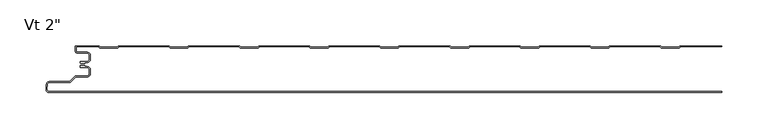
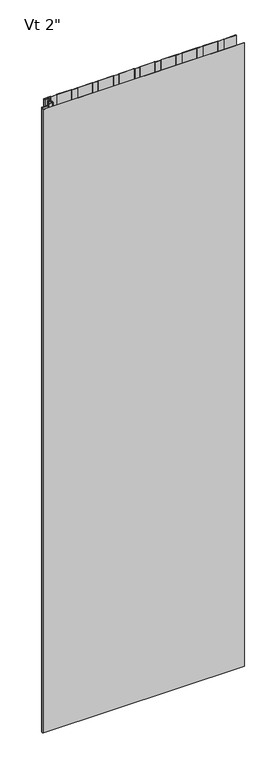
"""IFC4 building model written with IfcOpenShell, lengths in millimetres: plate geometry."""

from ifc_helpers import new_model, si_unit, point, frame, frame_2d, origin, origin_with_axes, place, context, project, spatial, polyline, circle_curve, trimmed, segment, composite_curve, outline, extrude, source, transform, mapped, element, save
from ifc_brep_helpers import plane_surface, cylinder_surface, revolved_surface, advanced_brep


def plate_09fe2767(model_context):
    return source(origin(), model_context, "Body", "SolidModel", [
        advanced_brep(
        [(-346.968691, -17.0015202, 2400.0), (-347.9686883, -18.0015234, 2400.0), (-346.968691, -19.0015147, 2400.0), (-342.9684874, -19.0015147, 2400.0), (-342.9684874, -18.0015202, 2400.0), (-340.2762776, -18.0015202, 2400.0), (-336.9762819, -14.7015245, 2400.0), (-336.9762819, -10.3015333, 2400.0), (-340.2762774, -7.0015378, 2400.0), (-350.6962563, -7.0015378, 2400.0), (-352.4662505, -5.2315436, 2400.0), (-352.4662505, -0.9999959, 2400.0), (-327.9659738, -0.9999959, 2400.0), (-326.5803312, -2.200235, 2400.0), (-307.2051649, -2.200235, 2400.0), (-305.819532, -1.0000043, 2400.0), (-251.7661166, -1.0000043, 2400.0), (-250.3804836, -2.200235, 2400.0), (-231.0053173, -2.200235, 2400.0), (-229.6196844, -1.0000043, 2400.0), (-175.566269, -1.0000043, 2400.0), (-174.180636, -2.200235, 2400.0), (-154.8054697, -2.200235, 2400.0), (-153.4198368, -1.0000043, 2400.0), (-99.3664214, -1.0000043, 2400.0), (-97.9807884, -2.200235, 2400.0), (-78.6056221, -2.200235, 2400.0), (-77.2199892, -1.0000043, 2400.0), (-23.1665738, -1.0000043, 2400.0), (-21.7809408, -2.200235, 2400.0), (-2.4057745, -2.200235, 2400.0), (-1.0201416, -1.0000043, 2400.0), (53.0332738, -1.0000043, 2400.0), (54.4189068, -2.200235, 2400.0), (73.7940731, -2.200235, 2400.0), (75.179706, -1.0000043, 2400.0), (129.2331214, -1.0000043, 2400.0), (130.6187544, -2.200235, 2400.0), (149.9939207, -2.200235, 2400.0), (151.3795536, -1.0000043, 2400.0), (205.432969, -1.0000043, 2400.0), (206.818602, -2.200235, 2400.0), (226.1937683, -2.200235, 2400.0), (227.5794012, -1.0000043, 2400.0), (281.6328166, -1.0000043, 2400.0), (283.0184496, -2.200235, 2400.0), (302.3936159, -2.200235, 2400.0), (303.7792488, -1.0000043, 2400.0), (348.9999998, -1.0000043, 2400.0), (348.9999998, -4.3e-06, 2400.0), (303.9284, -4.3e-06, 2400.0), (303.0117831, -0.3417928, 2400.0), (302.0207355, -1.200235, 2400.0), (283.39133, -1.200235, 2400.0), (282.4002824, -0.3417928, 2400.0), (281.4836655, -4.3e-06, 2400.0), (227.7285524, -4.3e-06, 2400.0), (226.8119355, -0.3417928, 2400.0), (225.8208879, -1.200235, 2400.0), (207.1914824, -1.200235, 2400.0), (206.2004348, -0.3417928, 2400.0), (205.2838179, -4.3e-06, 2400.0), (151.5287048, -4.3e-06, 2400.0), (150.6120879, -0.3417928, 2400.0), (149.6210403, -1.200235, 2400.0), (130.9916348, -1.200235, 2400.0), (130.0005872, -0.3417928, 2400.0), (129.0839703, -4.3e-06, 2400.0), (75.3288572, -4.3e-06, 2400.0), (74.4122403, -0.3417928, 2400.0), (73.4211927, -1.200235, 2400.0), (54.7917872, -1.200235, 2400.0), (53.8007396, -0.3417928, 2400.0), (52.8841227, -4.3e-06, 2400.0), (-0.8709904, -4.3e-06, 2400.0), (-1.7876073, -0.3417928, 2400.0), (-2.7786549, -1.200235, 2400.0), (-21.4080604, -1.200235, 2400.0), (-22.399108, -0.3417928, 2400.0), (-23.3157249, -4.3e-06, 2400.0), (-77.070838, -4.3e-06, 2400.0), (-77.9874549, -0.3417928, 2400.0), (-78.9785025, -1.200235, 2400.0), (-97.607908, -1.200235, 2400.0), (-98.5989556, -0.3417928, 2400.0), (-99.5155725, -4.3e-06, 2400.0), (-153.2706856, -4.3e-06, 2400.0), (-154.1873025, -0.3417928, 2400.0), (-155.1783501, -1.200235, 2400.0), (-173.8077556, -1.200235, 2400.0), (-174.7988032, -0.3417928, 2400.0), (-175.7154201, -4.3e-06, 2400.0), (-229.4705332, -4.3e-06, 2400.0), (-230.3871501, -0.3417928, 2400.0), (-231.3781977, -1.200235, 2400.0), (-250.0076032, -1.200235, 2400.0), (-250.9986508, -0.3417928, 2400.0), (-251.9152677, -4.3e-06, 2400.0), (-305.6703808, -4.3e-06, 2400.0), (-306.5869977, -0.3417928, 2400.0), (-307.5780453, -1.200235, 2400.0), (-326.2074508, -1.200235, 2400.0), (-327.1984984, -0.3417928, 2400.0), (-328.1152067, -4.3e-06, 2400.0), (-352.0662543, 4.1e-06, 2400.0), (-353.4662505, -1.3999921, 2400.0), (-353.4662505, -5.2315436, 2400.0), (-350.6962563, -8.0015378, 2400.0), (-340.2762774, -8.0015378, 2400.0), (-337.9762819, -10.3015333, 2400.0), (-337.9762819, -14.7015245, 2400.0), (-340.2762776, -17.0015202, 2400.0), (-346.968691, -17.0015202, 0.0), (-340.2762776, -17.0015202, 0.0), (-337.9762819, -14.7015245, 0.0), (-337.9762819, -10.3015333, 0.0), (-340.2762774, -8.0015378, 0.0), (-350.6962563, -8.0015378, 0.0), (-353.4662505, -5.2315436, 0.0), (-353.4662505, -1.3999921, 0.0), (-352.0662543, 4.1e-06, 0.0), (-328.1151153, 4.1e-06, 0.0), (-327.1984984, -0.3417928, 0.0), (-326.2074508, -1.200235, 0.0), (-307.5780453, -1.200235, 0.0), (-306.5869977, -0.3417928, 0.0), (-305.6703808, -4.3e-06, 0.0), (-251.9152677, -4.3e-06, 0.0), (-250.9986508, -0.3417928, 0.0), (-250.0076032, -1.200235, 0.0), (-231.3781977, -1.200235, 0.0), (-230.3871501, -0.3417928, 0.0), (-229.4705332, -4.3e-06, 0.0), (-175.7154201, -4.3e-06, 0.0), (-174.7988032, -0.3417928, 0.0), (-173.8077556, -1.200235, 0.0), (-155.1783501, -1.200235, 0.0), (-154.1873025, -0.3417928, 0.0), (-153.2706856, -4.3e-06, 0.0), (-99.5155725, -4.3e-06, 0.0), (-98.5989556, -0.3417928, 0.0), (-97.607908, -1.200235, 0.0), (-78.9785025, -1.200235, 0.0), (-77.9874549, -0.3417928, 0.0), (-77.070838, -4.3e-06, 0.0), (-23.3157249, -4.3e-06, 0.0), (-22.399108, -0.3417928, 0.0), (-21.4080604, -1.200235, 0.0), (-2.7786549, -1.200235, 0.0), (-1.7876073, -0.3417928, 0.0), (-0.8709904, -4.3e-06, 0.0), (52.8841227, -4.3e-06, 0.0), (53.8007396, -0.3417928, 0.0), (54.7917872, -1.200235, 0.0), (73.4211927, -1.200235, 0.0), (74.4122403, -0.3417928, 0.0), (75.3288572, -4.3e-06, 0.0), (129.0839703, -4.3e-06, 0.0), (130.0005872, -0.3417928, 0.0), (130.9916348, -1.200235, 0.0), (149.6210403, -1.200235, 0.0), (150.6120879, -0.3417928, 0.0), (151.5287048, -4.3e-06, 0.0), (205.2838179, -4.3e-06, 0.0), (206.2004348, -0.3417928, 0.0), (207.1914824, -1.200235, 0.0), (225.8208879, -1.200235, 0.0), (226.8119355, -0.3417928, 0.0), (227.7285524, -4.3e-06, 0.0), (281.4836655, -4.3e-06, 0.0), (282.4002824, -0.3417928, 0.0), (283.39133, -1.200235, 0.0), (302.0207355, -1.200235, 0.0), (303.0117831, -0.3417928, 0.0), (303.9284, -4.3e-06, 0.0), (348.9999998, -4.3e-06, 0.0), (348.9999998, -1.0000043, 0.0), (303.7792488, -1.0000043, 0.0), (302.3936159, -2.200235, 0.0), (283.0184496, -2.200235, 0.0), (281.6328166, -1.0000043, 0.0), (227.5794012, -1.0000043, 0.0), (226.1937683, -2.200235, 0.0), (206.818602, -2.200235, 0.0), (205.432969, -1.0000043, 0.0), (151.3795536, -1.0000043, 0.0), (149.9939207, -2.200235, 0.0), (130.6187544, -2.200235, 0.0), (129.2331214, -1.0000043, 0.0), (75.179706, -1.0000043, 0.0), (73.7940731, -2.200235, 0.0), (54.4189068, -2.200235, 0.0), (53.0332738, -1.0000043, 0.0), (-1.0201416, -1.0000043, 0.0), (-2.4057745, -2.200235, 0.0), (-21.7809408, -2.200235, 0.0), (-23.1665738, -1.0000043, 0.0), (-77.2199892, -1.0000043, 0.0), (-78.6056221, -2.200235, 0.0), (-97.9807884, -2.200235, 0.0), (-99.3664214, -1.0000043, 0.0), (-153.4198368, -1.0000043, 0.0), (-154.8054697, -2.200235, 0.0), (-174.180636, -2.200235, 0.0), (-175.566269, -1.0000043, 0.0), (-229.6196844, -1.0000043, 0.0), (-231.0053173, -2.200235, 0.0), (-250.3804836, -2.200235, 0.0), (-251.7661166, -1.0000043, 0.0), (-305.819532, -1.0000043, 0.0), (-307.2051649, -2.200235, 0.0), (-326.5803312, -2.200235, 0.0), (-327.9659738, -0.9999959, 0.0), (-352.4662505, -0.9999959, 0.0), (-352.4662505, -5.2315436, 0.0), (-350.6962563, -7.0015378, 0.0), (-340.2762774, -7.0015378, 0.0), (-336.9762819, -10.3015333, 0.0), (-336.9762819, -14.7015245, 0.0), (-340.2762776, -18.0015202, 0.0), (-342.9684874, -18.0015202, 0.0), (-342.9684874, -19.0015147, 0.0), (-346.968691, -19.0015147, 0.0), (-347.9686882, -18.0015235, 0.0)],
        [
            (0, 1, circle_curve(frame((-346.968691, -18.0015175, 2400.0), z_axis=(0.0, 0.0, 1.0), x_axis=(1.0, 0.0, 0.0)), 0.9999973)),
            (1, 2, circle_curve(frame((-346.968691, -18.0015175, 2400.0), z_axis=(0.0, 0.0, 1.0), x_axis=(1.0, 0.0, 0.0)), 0.9999972)),
            (2, 3),
            (3, 4),
            (4, 5),
            (5, 6, circle_curve(frame((-340.2762776, -14.7015245, 2400.0), z_axis=(0.0, 0.0, 1.0), x_axis=(1.0, 0.0, 0.0)), 3.2999957)),
            (6, 7),
            (7, 8, circle_curve(frame((-340.2762774, -10.3015333, 2400.0), z_axis=(0.0, 0.0, 1.0), x_axis=(1.0, 0.0, 0.0)), 3.2999955)),
            (8, 9),
            (9, 10, circle_curve(frame((-350.6962563, -5.2315436, 2400.0), z_axis=(0.0, 0.0, -1.0), x_axis=(1.0, 0.0, 0.0)), 1.7699942)),
            (10, 11),
            (11, 12),
            (12, 13),
            (13, 14),
            (14, 15),
            (15, 16),
            (16, 17),
            (17, 18),
            (18, 19),
            (19, 20),
            (20, 21),
            (21, 22),
            (22, 23),
            (23, 24),
            (24, 25),
            (25, 26),
            (26, 27),
            (27, 28),
            (28, 29),
            (29, 30),
            (30, 31),
            (31, 32),
            (32, 33),
            (33, 34),
            (34, 35),
            (35, 36),
            (36, 37),
            (37, 38),
            (38, 39),
            (39, 40),
            (40, 41),
            (41, 42),
            (42, 43),
            (43, 44),
            (44, 45),
            (45, 46),
            (46, 47),
            (47, 48),
            (48, 49),
            (49, 50),
            (50, 51, circle_curve(frame((303.9284, -1.4000015, 2400.0), z_axis=(0.0, 0.0, 1.0), x_axis=(1.0, 0.0, 0.0)), 1.3999972)),
            (51, 52),
            (52, 53),
            (53, 54),
            (54, 55, circle_curve(frame((281.4836655, -1.4000015, 2400.0), z_axis=(0.0, 0.0, 1.0), x_axis=(1.0, 0.0, 0.0)), 1.3999972)),
            (55, 56),
            (56, 57, circle_curve(frame((227.7285524, -1.4000015, 2400.0), z_axis=(0.0, 0.0, 1.0), x_axis=(1.0, 0.0, 0.0)), 1.3999972)),
            (57, 58),
            (58, 59),
            (59, 60),
            (60, 61, circle_curve(frame((205.2838179, -1.4000015, 2400.0), z_axis=(0.0, 0.0, 1.0), x_axis=(1.0, 0.0, 0.0)), 1.3999972)),
            (61, 62),
            (62, 63, circle_curve(frame((151.5287048, -1.4000015, 2400.0), z_axis=(0.0, 0.0, 1.0), x_axis=(1.0, 0.0, 0.0)), 1.3999972)),
            (63, 64),
            (64, 65),
            (65, 66),
            (66, 67, circle_curve(frame((129.0839703, -1.4000015, 2400.0), z_axis=(0.0, 0.0, 1.0), x_axis=(1.0, 0.0, 0.0)), 1.3999972)),
            (67, 68),
            (68, 69, circle_curve(frame((75.3288572, -1.4000015, 2400.0), z_axis=(0.0, 0.0, 1.0), x_axis=(1.0, 0.0, 0.0)), 1.3999972)),
            (69, 70),
            (70, 71),
            (71, 72),
            (72, 73, circle_curve(frame((52.8841227, -1.4000015, 2400.0), z_axis=(0.0, 0.0, 1.0), x_axis=(1.0, 0.0, 0.0)), 1.3999972)),
            (73, 74),
            (74, 75, circle_curve(frame((-0.8709904, -1.4000015, 2400.0), z_axis=(0.0, 0.0, 1.0), x_axis=(1.0, 0.0, 0.0)), 1.3999972)),
            (75, 76),
            (76, 77),
            (77, 78),
            (78, 79, circle_curve(frame((-23.3157249, -1.4000015, 2400.0), z_axis=(0.0, 0.0, 1.0), x_axis=(1.0, 0.0, 0.0)), 1.3999972)),
            (79, 80),
            (80, 81, circle_curve(frame((-77.070838, -1.4000015, 2400.0), z_axis=(0.0, 0.0, 1.0), x_axis=(1.0, 0.0, 0.0)), 1.3999972)),
            (81, 82),
            (82, 83),
            (83, 84),
            (84, 85, circle_curve(frame((-99.5155725, -1.4000015, 2400.0), z_axis=(0.0, 0.0, 1.0), x_axis=(1.0, 0.0, 0.0)), 1.3999972)),
            (85, 86),
            (86, 87, circle_curve(frame((-153.2706856, -1.4000015, 2400.0), z_axis=(0.0, 0.0, 1.0), x_axis=(1.0, 0.0, 0.0)), 1.3999972)),
            (87, 88),
            (88, 89),
            (89, 90),
            (90, 91, circle_curve(frame((-175.7154201, -1.4000015, 2400.0), z_axis=(0.0, 0.0, 1.0), x_axis=(1.0, 0.0, 0.0)), 1.3999972)),
            (91, 92),
            (92, 93, circle_curve(frame((-229.4705332, -1.4000015, 2400.0), z_axis=(0.0, 0.0, 1.0), x_axis=(1.0, 0.0, 0.0)), 1.3999972)),
            (93, 94),
            (94, 95),
            (95, 96),
            (96, 97, circle_curve(frame((-251.9152677, -1.4000015, 2400.0), z_axis=(0.0, 0.0, 1.0), x_axis=(1.0, 0.0, 0.0)), 1.3999972)),
            (97, 98),
            (98, 99, circle_curve(frame((-305.6703808, -1.4000015, 2400.0), z_axis=(0.0, 0.0, 1.0), x_axis=(1.0, 0.0, 0.0)), 1.3999972)),
            (99, 100),
            (100, 101),
            (101, 102),
            (102, 103, circle_curve(frame((-328.1151153, -1.4000015, 2400.0), z_axis=(0.0, 0.0, 1.0), x_axis=(1.0, 0.0, 0.0)), 1.3999972)),
            (103, 104),
            (104, 105, circle_curve(frame((-352.0662543, -1.3999921, 2400.0), z_axis=(0.0, 0.0, 1.0), x_axis=(1.0, 0.0, 0.0)), 1.3999962)),
            (105, 106),
            (106, 107, circle_curve(frame((-350.6962563, -5.2315436, 2400.0), z_axis=(0.0, 0.0, 1.0), x_axis=(1.0, 0.0, 0.0)), 2.7699942)),
            (107, 108),
            (108, 109, circle_curve(frame((-340.2762774, -10.3015333, 2400.0), z_axis=(0.0, 0.0, -1.0), x_axis=(1.0, 0.0, 0.0)), 2.2999955)),
            (109, 110),
            (110, 111, circle_curve(frame((-340.2762776, -14.7015245, 2400.0), z_axis=(0.0, 0.0, -1.0), x_axis=(1.0, 0.0, 0.0)), 2.2999957)),
            (111, 0),
            (112, 113),
            (113, 114, circle_curve(frame((-340.2762776, -14.7015245, 0.0), z_axis=(0.0, 0.0, 1.0), x_axis=(1.0, 0.0, 0.0)), 2.2999957)),
            (114, 115),
            (115, 116, circle_curve(frame((-340.2762774, -10.3015333, 0.0), z_axis=(0.0, 0.0, 1.0), x_axis=(1.0, 0.0, 0.0)), 2.2999955)),
            (116, 117),
            (117, 118, circle_curve(frame((-350.6962563, -5.2315436, 0.0), z_axis=(0.0, 0.0, -1.0), x_axis=(1.0, 0.0, 0.0)), 2.7699942)),
            (118, 119),
            (119, 120, circle_curve(frame((-352.0662543, -1.3999921, 0.0), z_axis=(0.0, 0.0, -1.0), x_axis=(1.0, 0.0, 0.0)), 1.3999962)),
            (120, 121),
            (121, 122, circle_curve(frame((-328.1151153, -1.4000015, 0.0), z_axis=(0.0, 0.0, -1.0), x_axis=(1.0, 0.0, 0.0)), 1.3999972)),
            (122, 123),
            (123, 124),
            (124, 125),
            (125, 126, circle_curve(frame((-305.6703808, -1.4000015, 0.0), z_axis=(0.0, 0.0, -1.0), x_axis=(1.0, 0.0, 0.0)), 1.3999972)),
            (126, 127),
            (127, 128, circle_curve(frame((-251.9152677, -1.4000015, 0.0), z_axis=(0.0, 0.0, -1.0), x_axis=(1.0, 0.0, 0.0)), 1.3999972)),
            (128, 129),
            (129, 130),
            (130, 131),
            (131, 132, circle_curve(frame((-229.4705332, -1.4000015, 0.0), z_axis=(0.0, 0.0, -1.0), x_axis=(1.0, 0.0, 0.0)), 1.3999972)),
            (132, 133),
            (133, 134, circle_curve(frame((-175.7154201, -1.4000015, 0.0), z_axis=(0.0, 0.0, -1.0), x_axis=(1.0, 0.0, 0.0)), 1.3999972)),
            (134, 135),
            (135, 136),
            (136, 137),
            (137, 138, circle_curve(frame((-153.2706856, -1.4000015, 0.0), z_axis=(0.0, 0.0, -1.0), x_axis=(1.0, 0.0, 0.0)), 1.3999972)),
            (138, 139),
            (139, 140, circle_curve(frame((-99.5155725, -1.4000015, 0.0), z_axis=(0.0, 0.0, -1.0), x_axis=(1.0, 0.0, 0.0)), 1.3999972)),
            (140, 141),
            (141, 142),
            (142, 143),
            (143, 144, circle_curve(frame((-77.070838, -1.4000015, 0.0), z_axis=(0.0, 0.0, -1.0), x_axis=(1.0, 0.0, 0.0)), 1.3999972)),
            (144, 145),
            (145, 146, circle_curve(frame((-23.3157249, -1.4000015, 0.0), z_axis=(0.0, 0.0, -1.0), x_axis=(1.0, 0.0, 0.0)), 1.3999972)),
            (146, 147),
            (147, 148),
            (148, 149),
            (149, 150, circle_curve(frame((-0.8709904, -1.4000015, 0.0), z_axis=(0.0, 0.0, -1.0), x_axis=(1.0, 0.0, 0.0)), 1.3999972)),
            (150, 151),
            (151, 152, circle_curve(frame((52.8841227, -1.4000015, 0.0), z_axis=(0.0, 0.0, -1.0), x_axis=(1.0, 0.0, 0.0)), 1.3999972)),
            (152, 153),
            (153, 154),
            (154, 155),
            (155, 156, circle_curve(frame((75.3288572, -1.4000015, 0.0), z_axis=(0.0, 0.0, -1.0), x_axis=(1.0, 0.0, 0.0)), 1.3999972)),
            (156, 157),
            (157, 158, circle_curve(frame((129.0839703, -1.4000015, 0.0), z_axis=(0.0, 0.0, -1.0), x_axis=(1.0, 0.0, 0.0)), 1.3999972)),
            (158, 159),
            (159, 160),
            (160, 161),
            (161, 162, circle_curve(frame((151.5287048, -1.4000015, 0.0), z_axis=(0.0, 0.0, -1.0), x_axis=(1.0, 0.0, 0.0)), 1.3999972)),
            (162, 163),
            (163, 164, circle_curve(frame((205.2838179, -1.4000015, 0.0), z_axis=(0.0, 0.0, -1.0), x_axis=(1.0, 0.0, 0.0)), 1.3999972)),
            (164, 165),
            (165, 166),
            (166, 167),
            (167, 168, circle_curve(frame((227.7285524, -1.4000015, 0.0), z_axis=(0.0, 0.0, -1.0), x_axis=(1.0, 0.0, 0.0)), 1.3999972)),
            (168, 169),
            (169, 170, circle_curve(frame((281.4836655, -1.4000015, 0.0), z_axis=(0.0, 0.0, -1.0), x_axis=(1.0, 0.0, 0.0)), 1.3999972)),
            (170, 171),
            (171, 172),
            (172, 173),
            (173, 174, circle_curve(frame((303.9284, -1.4000015, 0.0), z_axis=(0.0, 0.0, -1.0), x_axis=(1.0, 0.0, 0.0)), 1.3999972)),
            (174, 175),
            (175, 176),
            (176, 177),
            (177, 178),
            (178, 179),
            (179, 180),
            (180, 181),
            (181, 182),
            (182, 183),
            (183, 184),
            (184, 185),
            (185, 186),
            (186, 187),
            (187, 188),
            (188, 189),
            (189, 190),
            (190, 191),
            (191, 192),
            (192, 193),
            (193, 194),
            (194, 195),
            (195, 196),
            (196, 197),
            (197, 198),
            (198, 199),
            (199, 200),
            (200, 201),
            (201, 202),
            (202, 203),
            (203, 204),
            (204, 205),
            (205, 206),
            (206, 207),
            (207, 208),
            (208, 209),
            (209, 210),
            (210, 211),
            (211, 212),
            (212, 213),
            (213, 214),
            (214, 215, circle_curve(frame((-350.6962563, -5.2315436, 0.0), z_axis=(0.0, 0.0, 1.0), x_axis=(1.0, 0.0, 0.0)), 1.7699942)),
            (215, 216),
            (216, 217, circle_curve(frame((-340.2762774, -10.3015333, 0.0), z_axis=(0.0, 0.0, -1.0), x_axis=(1.0, 0.0, 0.0)), 3.2999955)),
            (217, 218),
            (218, 219, circle_curve(frame((-340.2762776, -14.7015245, 0.0), z_axis=(0.0, 0.0, -1.0), x_axis=(1.0, 0.0, 0.0)), 3.2999957)),
            (219, 220),
            (220, 221),
            (221, 222),
            (222, 223, circle_curve(frame((-346.968691, -18.0015175, 0.0), z_axis=(0.0, 0.0, -1.0), x_axis=(1.0, 0.0, 0.0)), 0.9999972)),
            (223, 112, circle_curve(frame((-346.968691, -18.0015175, 0.0), z_axis=(0.0, 0.0, -1.0), x_axis=(1.0, 0.0, 0.0)), 0.9999973)),
            (48, 176),
            (175, 49),
            (111, 113),
            (112, 0),
            (110, 114),
            (109, 115),
            (108, 116),
            (107, 117),
            (106, 118),
            (105, 119),
            (104, 120),
            (103, 121),
            (102, 122),
            (101, 123),
            (100, 124),
            (99, 125),
            (98, 126),
            (97, 127),
            (96, 128),
            (95, 129),
            (94, 130),
            (93, 131),
            (92, 132),
            (91, 133),
            (90, 134),
            (89, 135),
            (88, 136),
            (87, 137),
            (86, 138),
            (85, 139),
            (84, 140),
            (83, 141),
            (82, 142),
            (81, 143),
            (80, 144),
            (79, 145),
            (78, 146),
            (77, 147),
            (76, 148),
            (75, 149),
            (74, 150),
            (73, 151),
            (72, 152),
            (71, 153),
            (70, 154),
            (69, 155),
            (68, 156),
            (67, 157),
            (66, 158),
            (65, 159),
            (64, 160),
            (63, 161),
            (62, 162),
            (38, 186),
            (185, 39),
            (37, 187),
            (36, 188),
            (35, 189),
            (34, 190),
            (33, 191),
            (32, 192),
            (31, 193),
            (30, 194),
            (29, 195),
            (28, 196),
            (27, 197),
            (26, 198),
            (25, 199),
            (24, 200),
            (23, 201),
            (22, 202),
            (21, 203),
            (20, 204),
            (19, 205),
            (18, 206),
            (17, 207),
            (16, 208),
            (15, 209),
            (14, 210),
            (13, 211),
            (12, 212),
            (11, 213),
            (10, 214),
            (9, 215),
            (8, 216),
            (7, 217),
            (6, 218),
            (5, 219),
            (4, 220),
            (3, 221),
            (2, 222),
            (1, 223),
            (61, 163),
            (60, 164),
            (59, 165),
            (47, 177),
            (46, 178),
            (45, 179),
            (44, 180),
            (43, 181),
            (42, 182),
            (41, 183),
            (40, 184),
            (58, 166),
            (57, 167),
            (56, 168),
            (55, 169),
            (54, 170),
            (53, 171),
            (52, 172),
            (51, 173),
            (50, 174),
        ],
        [
            plane_surface(frame((32.0000002, -4.3e-06, 2400.0), z_axis=(0.0, 0.0, 1.0), x_axis=(0.0, 1.0, 0.0))),
            plane_surface(frame((32.0000002, -4.3e-06, 0.0), z_axis=(0.0, 0.0, -1.0), x_axis=(0.0, 1.0, 0.0))),
            plane_surface(frame((348.9999998, -60.8000043, 2400.0), z_axis=(1.0, 0.0, 0.0), x_axis=(0.0, 0.0, -1.0))),
            plane_surface(frame((-346.968691, -17.0015202, 2400.0), z_axis=(0.0, 1.0, 0.0), x_axis=(0.0, 0.0, -1.0))),
            revolved_surface(polyline([(-337.9762819, -14.7015245, 0.0), (-337.9762819, -14.7015245, 2400.0)]), (-340.2762776, -14.7015245, 2400.0), (0.0, 0.0, -1.0)),
            plane_surface(frame((-337.9762819, -14.7015245, 2400.0), z_axis=(-1.0, 0.0, 0.0), x_axis=(0.0, 0.0, -1.0))),
            revolved_surface(polyline([(-337.9762819, -10.3015333, 0.0), (-337.9762819, -10.3015333, 2400.0)]), (-340.2762774, -10.3015333, 2400.0), (0.0, 0.0, -1.0)),
            plane_surface(frame((-340.2762774, -8.0015378, 2400.0), z_axis=(0.0, -1.0, 0.0), x_axis=(0.0, 0.0, -1.0))),
            cylinder_surface(frame((-350.6962563, -5.2315436, 2400.0), z_axis=(0.0, 0.0, 1.0), x_axis=(1.0, 0.0, 0.0)), 2.7699942),
            plane_surface(frame((-353.4662505, -5.2315436, 2400.0), z_axis=(-1.0, 0.0, 0.0), x_axis=(0.0, 0.0, -1.0))),
            cylinder_surface(frame((-352.0662543, -1.3999921, 2400.0), z_axis=(0.0, 0.0, 1.0), x_axis=(1.0, 0.0, 0.0)), 1.3999962),
            plane_surface(frame((-352.0662543, 4.1e-06, 2400.0), z_axis=(0.0, 1.0, 0.0), x_axis=(0.0, 0.0, -1.0))),
            cylinder_surface(frame((-328.1151153, -1.4000015, 2400.0), z_axis=(0.0, 0.0, 1.0), x_axis=(1.0, 0.0, 0.0)), 1.3999972),
            plane_surface(frame((-327.1984984, -0.3417928, 2400.0), z_axis=(0.6547276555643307, 0.7558648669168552, 0.0), x_axis=(0.0, 0.0, -1.0))),
            plane_surface(frame((-316.8927481, -1.200235, 2400.0), z_axis=(0.0, 1.0, 0.0), x_axis=(0.0, 0.0, -1.0))),
            plane_surface(frame((-307.5780453, -1.200235, 2400.0), z_axis=(-0.6547276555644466, 0.7558648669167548, 0.0), x_axis=(0.0, 0.0, -1.0))),
            cylinder_surface(frame((-305.6703808, -1.4000015, 2400.0), z_axis=(0.0, 0.0, 1.0), x_axis=(1.0, 0.0, 0.0)), 1.3999972),
            plane_surface(frame((-305.6703808, -4.3e-06, 2400.0), z_axis=(0.0, 1.0, 0.0), x_axis=(0.0, 0.0, -1.0))),
            cylinder_surface(frame((-251.9152677, -1.4000015, 2400.0), z_axis=(0.0, 0.0, 1.0), x_axis=(1.0, 0.0, 0.0)), 1.3999972),
            plane_surface(frame((-250.9986508, -0.3417928, 2400.0), z_axis=(0.6547276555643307, 0.7558648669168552, 0.0), x_axis=(0.0, 0.0, -1.0))),
            plane_surface(frame((-240.6929005, -1.200235, 2400.0), z_axis=(0.0, 1.0, 0.0), x_axis=(0.0, 0.0, -1.0))),
            plane_surface(frame((-231.3781977, -1.200235, 2400.0), z_axis=(-0.6547276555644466, 0.7558648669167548, 0.0), x_axis=(0.0, 0.0, -1.0))),
            cylinder_surface(frame((-229.4705332, -1.4000015, 2400.0), z_axis=(0.0, 0.0, 1.0), x_axis=(1.0, 0.0, 0.0)), 1.3999972),
            plane_surface(frame((-229.4705332, -4.3e-06, 2400.0), z_axis=(0.0, 1.0, 0.0), x_axis=(0.0, 0.0, -1.0))),
            cylinder_surface(frame((-175.7154201, -1.4000015, 2400.0), z_axis=(0.0, 0.0, 1.0), x_axis=(1.0, 0.0, 0.0)), 1.3999972),
            plane_surface(frame((-174.7988032, -0.3417928, 2400.0), z_axis=(0.6547276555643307, 0.7558648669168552, 0.0), x_axis=(0.0, 0.0, -1.0))),
            plane_surface(frame((-164.4930529, -1.200235, 2400.0), z_axis=(0.0, 1.0, 0.0), x_axis=(0.0, 0.0, -1.0))),
            plane_surface(frame((-155.1783501, -1.200235, 2400.0), z_axis=(-0.6547276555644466, 0.7558648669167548, 0.0), x_axis=(0.0, 0.0, -1.0))),
            cylinder_surface(frame((-153.2706856, -1.4000015, 2400.0), z_axis=(0.0, 0.0, 1.0), x_axis=(1.0, 0.0, 0.0)), 1.3999972),
            plane_surface(frame((-153.2706856, -4.3e-06, 2400.0), z_axis=(0.0, 1.0, 0.0), x_axis=(0.0, 0.0, -1.0))),
            cylinder_surface(frame((-99.5155725, -1.4000015, 2400.0), z_axis=(0.0, 0.0, 1.0), x_axis=(1.0, 0.0, 0.0)), 1.3999972),
            plane_surface(frame((-98.5989556, -0.3417928, 2400.0), z_axis=(0.6547276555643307, 0.7558648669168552, 0.0), x_axis=(0.0, 0.0, -1.0))),
            plane_surface(frame((-88.2932053, -1.200235, 2400.0), z_axis=(0.0, 1.0, 0.0), x_axis=(0.0, 0.0, -1.0))),
            plane_surface(frame((-78.9785025, -1.200235, 2400.0), z_axis=(-0.6547276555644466, 0.7558648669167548, 0.0), x_axis=(0.0, 0.0, -1.0))),
            cylinder_surface(frame((-77.070838, -1.4000015, 2400.0), z_axis=(0.0, 0.0, 1.0), x_axis=(1.0, 0.0, 0.0)), 1.3999972),
            plane_surface(frame((-77.070838, -4.3e-06, 2400.0), z_axis=(0.0, 1.0, 0.0), x_axis=(0.0, 0.0, -1.0))),
            cylinder_surface(frame((-23.3157249, -1.4000015, 2400.0), z_axis=(0.0, 0.0, 1.0), x_axis=(1.0, 0.0, 0.0)), 1.3999972),
            plane_surface(frame((-22.399108, -0.3417928, 2400.0), z_axis=(0.6547276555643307, 0.7558648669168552, 0.0), x_axis=(0.0, 0.0, -1.0))),
            plane_surface(frame((-12.0933577, -1.200235, 2400.0), z_axis=(0.0, 1.0, 0.0), x_axis=(0.0, 0.0, -1.0))),
            plane_surface(frame((-2.7786549, -1.200235, 2400.0), z_axis=(-0.6547276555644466, 0.7558648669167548, 0.0), x_axis=(0.0, 0.0, -1.0))),
            cylinder_surface(frame((-0.8709904, -1.4000015, 2400.0), z_axis=(0.0, 0.0, 1.0), x_axis=(1.0, 0.0, 0.0)), 1.3999972),
            plane_surface(frame((-0.8709904, -4.3e-06, 2400.0), z_axis=(0.0, 1.0, 0.0), x_axis=(0.0, 0.0, -1.0))),
            cylinder_surface(frame((52.8841227, -1.4000015, 2400.0), z_axis=(0.0, 0.0, 1.0), x_axis=(1.0, 0.0, 0.0)), 1.3999972),
            plane_surface(frame((53.8007396, -0.3417928, 2400.0), z_axis=(0.6547276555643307, 0.7558648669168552, 0.0), x_axis=(0.0, 0.0, -1.0))),
            plane_surface(frame((64.1064899, -1.200235, 2400.0), z_axis=(0.0, 1.0, 0.0), x_axis=(0.0, 0.0, -1.0))),
            plane_surface(frame((73.4211927, -1.200235, 2400.0), z_axis=(-0.6547276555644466, 0.7558648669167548, 0.0), x_axis=(0.0, 0.0, -1.0))),
            cylinder_surface(frame((75.3288572, -1.4000015, 2400.0), z_axis=(0.0, 0.0, 1.0), x_axis=(1.0, 0.0, 0.0)), 1.3999972),
            plane_surface(frame((75.3288572, -4.3e-06, 2400.0), z_axis=(0.0, 1.0, 0.0), x_axis=(0.0, 0.0, -1.0))),
            cylinder_surface(frame((129.0839703, -1.4000015, 2400.0), z_axis=(0.0, 0.0, 1.0), x_axis=(1.0, 0.0, 0.0)), 1.3999972),
            plane_surface(frame((130.0005872, -0.3417928, 2400.0), z_axis=(0.6547276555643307, 0.7558648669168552, 0.0), x_axis=(0.0, 0.0, -1.0))),
            plane_surface(frame((140.3063375, -1.200235, 2400.0), z_axis=(0.0, 1.0, 0.0), x_axis=(0.0, 0.0, -1.0))),
            plane_surface(frame((149.6210403, -1.200235, 2400.0), z_axis=(-0.6547276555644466, 0.7558648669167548, 0.0), x_axis=(0.0, 0.0, -1.0))),
            cylinder_surface(frame((151.5287048, -1.4000015, 2400.0), z_axis=(0.0, 0.0, 1.0), x_axis=(1.0, 0.0, 0.0)), 1.3999972),
            plane_surface(frame((151.3795536, -1.0000043, 2400.0), z_axis=(0.6547276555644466, -0.7558648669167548, 0.0), x_axis=(0.0, 0.0, -1.0))),
            plane_surface(frame((149.9939207, -2.200235, 2400.0), z_axis=(0.0, -1.0, 0.0), x_axis=(0.0, 0.0, -1.0))),
            plane_surface(frame((130.6187544, -2.200235, 2400.0), z_axis=(-0.6547276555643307, -0.7558648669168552, 0.0), x_axis=(0.0, 0.0, -1.0))),
            plane_surface(frame((129.2331214, -1.0000043, 2400.0), z_axis=(0.0, -1.0, 0.0), x_axis=(0.0, 0.0, -1.0))),
            plane_surface(frame((75.179706, -1.0000043, 2400.0), z_axis=(0.6547276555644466, -0.7558648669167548, 0.0), x_axis=(0.0, 0.0, -1.0))),
            plane_surface(frame((73.7940731, -2.200235, 2400.0), z_axis=(0.0, -1.0, 0.0), x_axis=(0.0, 0.0, -1.0))),
            plane_surface(frame((54.4189068, -2.200235, 2400.0), z_axis=(-0.6547276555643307, -0.7558648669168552, 0.0), x_axis=(0.0, 0.0, -1.0))),
            plane_surface(frame((53.0332738, -1.0000043, 2400.0), z_axis=(0.0, -1.0, 0.0), x_axis=(0.0, 0.0, -1.0))),
            plane_surface(frame((-1.0201416, -1.0000043, 2400.0), z_axis=(0.6547276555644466, -0.7558648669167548, 0.0), x_axis=(0.0, 0.0, -1.0))),
            plane_surface(frame((-2.4057745, -2.200235, 2400.0), z_axis=(0.0, -1.0, 0.0), x_axis=(0.0, 0.0, -1.0))),
            plane_surface(frame((-21.7809408, -2.200235, 2400.0), z_axis=(-0.6547276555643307, -0.7558648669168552, 0.0), x_axis=(0.0, 0.0, -1.0))),
            plane_surface(frame((-23.1665738, -1.0000043, 2400.0), z_axis=(0.0, -1.0, 0.0), x_axis=(0.0, 0.0, -1.0))),
            plane_surface(frame((-77.2199892, -1.0000043, 2400.0), z_axis=(0.6547276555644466, -0.7558648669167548, 0.0), x_axis=(0.0, 0.0, -1.0))),
            plane_surface(frame((-78.6056221, -2.200235, 2400.0), z_axis=(0.0, -1.0, 0.0), x_axis=(0.0, 0.0, -1.0))),
            plane_surface(frame((-97.9807884, -2.200235, 2400.0), z_axis=(-0.6547276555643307, -0.7558648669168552, 0.0), x_axis=(0.0, 0.0, -1.0))),
            plane_surface(frame((-99.3664214, -1.0000043, 2400.0), z_axis=(0.0, -1.0, 0.0), x_axis=(0.0, 0.0, -1.0))),
            plane_surface(frame((-153.4198368, -1.0000043, 2400.0), z_axis=(0.6547276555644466, -0.7558648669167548, 0.0), x_axis=(0.0, 0.0, -1.0))),
            plane_surface(frame((-154.8054697, -2.200235, 2400.0), z_axis=(0.0, -1.0, 0.0), x_axis=(0.0, 0.0, -1.0))),
            plane_surface(frame((-174.180636, -2.200235, 2400.0), z_axis=(-0.6547276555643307, -0.7558648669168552, 0.0), x_axis=(0.0, 0.0, -1.0))),
            plane_surface(frame((-175.566269, -1.0000043, 2400.0), z_axis=(0.0, -1.0, 0.0), x_axis=(0.0, 0.0, -1.0))),
            plane_surface(frame((-229.6196844, -1.0000043, 2400.0), z_axis=(0.6547276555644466, -0.7558648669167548, 0.0), x_axis=(0.0, 0.0, -1.0))),
            plane_surface(frame((-231.0053173, -2.200235, 2400.0), z_axis=(0.0, -1.0, 0.0), x_axis=(0.0, 0.0, -1.0))),
            plane_surface(frame((-250.3804836, -2.200235, 2400.0), z_axis=(-0.6547276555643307, -0.7558648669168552, 0.0), x_axis=(0.0, 0.0, -1.0))),
            plane_surface(frame((-251.7661166, -1.0000043, 2400.0), z_axis=(0.0, -1.0, 0.0), x_axis=(0.0, 0.0, -1.0))),
            plane_surface(frame((-305.819532, -1.0000043, 2400.0), z_axis=(0.6547276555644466, -0.7558648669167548, 0.0), x_axis=(0.0, 0.0, -1.0))),
            plane_surface(frame((-307.2051649, -2.200235, 2400.0), z_axis=(0.0, -1.0, 0.0), x_axis=(0.0, 0.0, -1.0))),
            plane_surface(frame((-326.5803312, -2.200235, 2400.0), z_axis=(-0.6547276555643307, -0.7558648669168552, 0.0), x_axis=(0.0, 0.0, -1.0))),
            plane_surface(frame((-327.9659738, -0.9999959, 2400.0), z_axis=(0.0, -1.0, 0.0), x_axis=(0.0, 0.0, -1.0))),
            plane_surface(frame((-352.4662505, -0.9999959, 2400.0), z_axis=(1.0, 0.0, 0.0), x_axis=(0.0, 0.0, -1.0))),
            revolved_surface(polyline([(-348.92626210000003, -5.2315436, 0.0), (-348.92626210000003, -5.2315436, 2400.0)]), (-350.6962563, -5.2315436, 2400.0), (0.0, 0.0, -1.0)),
            plane_surface(frame((-350.6962563, -7.0015378, 2400.0), z_axis=(0.0, 1.0, 0.0), x_axis=(0.0, 0.0, -1.0))),
            cylinder_surface(frame((-340.2762774, -10.3015333, 2400.0), z_axis=(0.0, 0.0, 1.0), x_axis=(1.0, 0.0, 0.0)), 3.2999955),
            plane_surface(frame((-336.9762819, -10.3015333, 2400.0), z_axis=(1.0, 0.0, 0.0), x_axis=(0.0, 0.0, -1.0))),
            cylinder_surface(frame((-340.2762776, -14.7015245, 2400.0), z_axis=(0.0, 0.0, 1.0), x_axis=(1.0, 0.0, 0.0)), 3.2999957),
            plane_surface(frame((-340.2762776, -18.0015202, 2400.0), z_axis=(0.0, -1.0, 0.0), x_axis=(0.0, 0.0, -1.0))),
            plane_surface(frame((-342.9684874, -18.0015202, 2400.0), z_axis=(1.0, 0.0, 0.0), x_axis=(0.0, 0.0, -1.0))),
            plane_surface(frame((-342.9684874, -19.0015147, 2400.0), z_axis=(0.0, -1.0, 0.0), x_axis=(0.0, 0.0, -1.0))),
            cylinder_surface(frame((-346.968691, -18.0015175, 2400.0), z_axis=(0.0, 0.0, 1.0), x_axis=(1.0, 0.0, 0.0)), 0.9999972),
            cylinder_surface(frame((-346.968691, -18.0015175, 2400.0), z_axis=(0.0, 0.0, 1.0), x_axis=(1.0, 0.0, 0.0)), 0.9999973),
            plane_surface(frame((151.5287048, -4.3e-06, 2400.0), z_axis=(0.0, 1.0, 0.0), x_axis=(0.0, 0.0, -1.0))),
            cylinder_surface(frame((205.2838179, -1.4000015, 2400.0), z_axis=(0.0, 0.0, 1.0), x_axis=(1.0, 0.0, 0.0)), 1.3999972),
            plane_surface(frame((206.2004348, -0.3417928, 2400.0), z_axis=(0.6547276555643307, 0.7558648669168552, 0.0), x_axis=(0.0, 0.0, -1.0))),
            plane_surface(frame((357.8326642, -1.0000043, 2400.0), z_axis=(0.0, -1.0, 0.0), x_axis=(0.0, 0.0, -1.0))),
            plane_surface(frame((303.7792488, -1.0000043, 2400.0), z_axis=(0.6547276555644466, -0.7558648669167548, 0.0), x_axis=(0.0, 0.0, -1.0))),
            plane_surface(frame((302.3936159, -2.200235, 2400.0), z_axis=(0.0, -1.0, 0.0), x_axis=(0.0, 0.0, -1.0))),
            plane_surface(frame((283.0184496, -2.200235, 2400.0), z_axis=(-0.6547276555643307, -0.7558648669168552, 0.0), x_axis=(0.0, 0.0, -1.0))),
            plane_surface(frame((281.6328166, -1.0000043, 2400.0), z_axis=(0.0, -1.0, 0.0), x_axis=(0.0, 0.0, -1.0))),
            plane_surface(frame((227.5794012, -1.0000043, 2400.0), z_axis=(0.6547276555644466, -0.7558648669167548, 0.0), x_axis=(0.0, 0.0, -1.0))),
            plane_surface(frame((226.1937683, -2.200235, 2400.0), z_axis=(0.0, -1.0, 0.0), x_axis=(0.0, 0.0, -1.0))),
            plane_surface(frame((206.818602, -2.200235, 2400.0), z_axis=(-0.6547276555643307, -0.7558648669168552, 0.0), x_axis=(0.0, 0.0, -1.0))),
            plane_surface(frame((216.5061851, -1.200235, 2400.0), z_axis=(0.0, 1.0, 0.0), x_axis=(0.0, 0.0, -1.0))),
            plane_surface(frame((225.8208879, -1.200235, 2400.0), z_axis=(-0.6547276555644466, 0.7558648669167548, 0.0), x_axis=(0.0, 0.0, -1.0))),
            cylinder_surface(frame((227.7285524, -1.4000015, 2400.0), z_axis=(0.0, 0.0, 1.0), x_axis=(1.0, 0.0, 0.0)), 1.3999972),
            plane_surface(frame((227.7285524, -4.3e-06, 2400.0), z_axis=(0.0, 1.0, 0.0), x_axis=(0.0, 0.0, -1.0))),
            cylinder_surface(frame((281.4836655, -1.4000015, 2400.0), z_axis=(0.0, 0.0, 1.0), x_axis=(1.0, 0.0, 0.0)), 1.3999972),
            plane_surface(frame((282.4002824, -0.3417928, 2400.0), z_axis=(0.6547276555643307, 0.7558648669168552, 0.0), x_axis=(0.0, 0.0, -1.0))),
            plane_surface(frame((292.7060327, -1.200235, 2400.0), z_axis=(0.0, 1.0, 0.0), x_axis=(0.0, 0.0, -1.0))),
            plane_surface(frame((302.0207355, -1.200235, 2400.0), z_axis=(-0.6547276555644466, 0.7558648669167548, 0.0), x_axis=(0.0, 0.0, -1.0))),
            cylinder_surface(frame((303.9284, -1.4000015, 2400.0), z_axis=(0.0, 0.0, 1.0), x_axis=(1.0, 0.0, 0.0)), 1.3999972),
            plane_surface(frame((303.9284, -4.3e-06, 2400.0), z_axis=(0.0, 1.0, 0.0), x_axis=(0.0, 0.0, -1.0))),
            plane_surface(frame((205.432969, -1.0000043, 2400.0), z_axis=(0.0, -1.0, 0.0), x_axis=(0.0, 0.0, -1.0))),
        ],
        [
            (0, [[1, 2, 3, 4, 5, 6, 7, 8, 9, 10, 11, 12, 13, 14, 15, 16, 17, 18, 19, 20, 21, 22, 23, 24, 25, 26, 27, 28, 29, 30, 31, 32, 33, 34, 35, 36, 37, 38, 39, 40, 41, 42, 43, 44, 45, 46, 47, 48, 49, 50, 51, 52, 53, 54, 55, 56, 57, 58, 59, 60, 61, 62, 63, 64, 65, 66, 67, 68, 69, 70, 71, 72, 73, 74, 75, 76, 77, 78, 79, 80, 81, 82, 83, 84, 85, 86, 87, 88, 89, 90, 91, 92, 93, 94, 95, 96, 97, 98, 99, 100, 101, 102, 103, 104, 105, 106, 107, 108, 109, 110, 111, 112]]),
            (1, [[113, 114, 115, 116, 117, 118, 119, 120, 121, 122, 123, 124, 125, 126, 127, 128, 129, 130, 131, 132, 133, 134, 135, 136, 137, 138, 139, 140, 141, 142, 143, 144, 145, 146, 147, 148, 149, 150, 151, 152, 153, 154, 155, 156, 157, 158, 159, 160, 161, 162, 163, 164, 165, 166, 167, 168, 169, 170, 171, 172, 173, 174, 175, 176, 177, 178, 179, 180, 181, 182, 183, 184, 185, 186, 187, 188, 189, 190, 191, 192, 193, 194, 195, 196, 197, 198, 199, 200, 201, 202, 203, 204, 205, 206, 207, 208, 209, 210, 211, 212, 213, 214, 215, 216, 217, 218, 219, 220, 221, 222, 223, 224]]),
            (2, [[225, -176, 226, -49]]),
            (3, [[227, -113, 228, -112]]),
            (4, [[229, -114, -227, -111]]),
            (5, [[230, -115, -229, -110]]),
            (6, [[231, -116, -230, -109]]),
            (7, [[232, -117, -231, -108]]),
            (8, [[233, -118, -232, -107]]),
            (9, [[234, -119, -233, -106]]),
            (10, [[235, -120, -234, -105]]),
            (11, [[236, -121, -235, -104]]),
            (12, [[237, -122, -236, -103]]),
            (13, [[238, -123, -237, -102]]),
            (14, [[239, -124, -238, -101]]),
            (15, [[240, -125, -239, -100]]),
            (16, [[241, -126, -240, -99]]),
            (17, [[242, -127, -241, -98]]),
            (18, [[243, -128, -242, -97]]),
            (19, [[244, -129, -243, -96]]),
            (20, [[245, -130, -244, -95]]),
            (21, [[246, -131, -245, -94]]),
            (22, [[247, -132, -246, -93]]),
            (23, [[248, -133, -247, -92]]),
            (24, [[249, -134, -248, -91]]),
            (25, [[250, -135, -249, -90]]),
            (26, [[251, -136, -250, -89]]),
            (27, [[252, -137, -251, -88]]),
            (28, [[253, -138, -252, -87]]),
            (29, [[254, -139, -253, -86]]),
            (30, [[255, -140, -254, -85]]),
            (31, [[256, -141, -255, -84]]),
            (32, [[257, -142, -256, -83]]),
            (33, [[258, -143, -257, -82]]),
            (34, [[259, -144, -258, -81]]),
            (35, [[260, -145, -259, -80]]),
            (36, [[261, -146, -260, -79]]),
            (37, [[262, -147, -261, -78]]),
            (38, [[263, -148, -262, -77]]),
            (39, [[264, -149, -263, -76]]),
            (40, [[265, -150, -264, -75]]),
            (41, [[266, -151, -265, -74]]),
            (42, [[267, -152, -266, -73]]),
            (43, [[268, -153, -267, -72]]),
            (44, [[269, -154, -268, -71]]),
            (45, [[270, -155, -269, -70]]),
            (46, [[271, -156, -270, -69]]),
            (47, [[272, -157, -271, -68]]),
            (48, [[273, -158, -272, -67]]),
            (49, [[274, -159, -273, -66]]),
            (50, [[275, -160, -274, -65]]),
            (51, [[276, -161, -275, -64]]),
            (52, [[277, -162, -276, -63]]),
            (53, [[278, -186, 279, -39]]),
            (54, [[280, -187, -278, -38]]),
            (55, [[281, -188, -280, -37]]),
            (56, [[282, -189, -281, -36]]),
            (57, [[283, -190, -282, -35]]),
            (58, [[284, -191, -283, -34]]),
            (59, [[285, -192, -284, -33]]),
            (60, [[286, -193, -285, -32]]),
            (61, [[287, -194, -286, -31]]),
            (62, [[288, -195, -287, -30]]),
            (63, [[289, -196, -288, -29]]),
            (64, [[290, -197, -289, -28]]),
            (65, [[291, -198, -290, -27]]),
            (66, [[292, -199, -291, -26]]),
            (67, [[293, -200, -292, -25]]),
            (68, [[294, -201, -293, -24]]),
            (69, [[295, -202, -294, -23]]),
            (70, [[296, -203, -295, -22]]),
            (71, [[297, -204, -296, -21]]),
            (72, [[298, -205, -297, -20]]),
            (73, [[299, -206, -298, -19]]),
            (74, [[300, -207, -299, -18]]),
            (75, [[301, -208, -300, -17]]),
            (76, [[302, -209, -301, -16]]),
            (77, [[303, -210, -302, -15]]),
            (78, [[304, -211, -303, -14]]),
            (79, [[305, -212, -304, -13]]),
            (80, [[306, -213, -305, -12]]),
            (81, [[307, -214, -306, -11]]),
            (82, [[308, -215, -307, -10]]),
            (83, [[309, -216, -308, -9]]),
            (84, [[310, -217, -309, -8]]),
            (85, [[311, -218, -310, -7]]),
            (86, [[312, -219, -311, -6]]),
            (87, [[313, -220, -312, -5]]),
            (88, [[314, -221, -313, -4]]),
            (89, [[315, -222, -314, -3]]),
            (90, [[316, -223, -315, -2]]),
            (91, [[-228, -224, -316, -1]]),
            (92, [[317, -163, -277, -62]]),
            (93, [[318, -164, -317, -61]]),
            (94, [[319, -165, -318, -60]]),
            (95, [[-177, -225, -48, 320]]),
            (96, [[321, -178, -320, -47]]),
            (97, [[322, -179, -321, -46]]),
            (98, [[323, -180, -322, -45]]),
            (99, [[324, -181, -323, -44]]),
            (100, [[325, -182, -324, -43]]),
            (101, [[326, -183, -325, -42]]),
            (102, [[327, -184, -326, -41]]),
            (103, [[328, -166, -319, -59]]),
            (104, [[329, -167, -328, -58]]),
            (105, [[330, -168, -329, -57]]),
            (106, [[331, -169, -330, -56]]),
            (107, [[332, -170, -331, -55]]),
            (108, [[333, -171, -332, -54]]),
            (109, [[334, -172, -333, -53]]),
            (110, [[335, -173, -334, -52]]),
            (111, [[336, -174, -335, -51]]),
            (112, [[-50, -226, -175, -336]]),
            (113, [[-279, -185, -327, -40]]),
        ],
    ),
        extrude(outline(composite_curve([segment(polyline([(-385.0087548, -46.9184134), (-384.5690674, -41.894448)]), True, "CONTINUOUS"), segment(trimmed(circle_curve(frame_2d((-380.9198391, -42.5052491)), 3.6999926), [point((-384.5690674, -41.894448))], [point((-380.9198391, -38.8052565))], False, "CARTESIAN"), True, "CONTINUOUS"), segment(polyline([(-380.9198391, -38.8052565), (-359.7773995, -38.8052565)]), True, "CONTINUOUS"), segment(trimmed(circle_curve(frame_2d((-359.7773995, -37.5052591)), 1.2999974), [point((-359.7773995, -38.8052565))], [point((-358.8581626, -38.4244961))], True, "CARTESIAN"), True, "CONTINUOUS"), segment(polyline([(-358.8581626, -38.4244961), (-354.0297451, -33.5960786)]), True, "CONTINUOUS"), segment(trimmed(circle_curve(frame_2d((-352.1205606, -35.5052631)), 2.6999946), [point((-354.0297451, -33.5960786))], [point((-352.1205606, -32.8052685))], False, "CARTESIAN"), True, "CONTINUOUS"), segment(polyline([(-352.1205606, -32.8052685), (-340.3096715, -32.8052685)]), True, "CONTINUOUS"), segment(trimmed(circle_curve(frame_2d((-340.3096715, -30.4552732)), 2.3499953), [point((-340.3096715, -32.8052685))], [point((-337.9596762, -30.4552732))], True, "CARTESIAN"), True, "CONTINUOUS"), segment(polyline([(-337.9596762, -30.4552732), (-337.9596762, -26.055282)]), True, "CONTINUOUS"), segment(trimmed(circle_curve(frame_2d((-340.3096715, -26.055282)), 2.3499953), [point((-337.9596762, -26.055282))], [point((-340.3096715, -23.7052867))], True, "CARTESIAN"), True, "CONTINUOUS"), segment(polyline([(-340.3096715, -23.7052867), (-346.8289777, -23.7052867)]), True, "CONTINUOUS"), segment(trimmed(circle_curve(frame_2d((-346.7686906, -22.5068044)), 1.1999976), [point((-346.8289777, -23.7052867))], [point((-347.9683, -22.4762825))], False, "CARTESIAN"), True, "CONTINUOUS"), segment(trimmed(circle_curve(frame_2d((-346.7686906, -22.5068044)), 1.1999976), [point((-347.9683, -22.4762825))], [point((-346.767176, -21.3068078))], False, "CARTESIAN"), True, "CONTINUOUS"), segment(polyline([(-346.767176, -21.3068078), (-343.0087826, -21.3068078), (-343.0087826, -22.7052867), (-340.3096715, -22.7052867)]), True, "CONTINUOUS"), segment(trimmed(circle_curve(frame_2d((-340.3096715, -26.055282)), 3.3499953), [point((-340.3096715, -22.7052867))], [point((-336.9596762, -26.055282))], False, "CARTESIAN"), True, "CONTINUOUS"), segment(polyline([(-336.9596762, -26.055282), (-336.9596762, -30.4552732)]), True, "CONTINUOUS"), segment(trimmed(circle_curve(frame_2d((-340.3096715, -30.4552732)), 3.3499953), [point((-336.9596762, -30.4552732))], [point((-340.3096715, -33.8052685))], False, "CARTESIAN"), True, "CONTINUOUS"), segment(polyline([(-340.3096715, -33.8052685), (-352.1205606, -33.8052685)]), True, "CONTINUOUS"), segment(trimmed(circle_curve(frame_2d((-352.1205606, -35.5052631)), 1.6999946), [point((-352.1205606, -33.8052685))], [point((-353.3226383, -34.3031854))], True, "CARTESIAN"), True, "CONTINUOUS"), segment(polyline([(-353.3226383, -34.3031854), (-358.8247094, -39.8052565), (-380.9198391, -39.8052565)]), True, "CONTINUOUS"), segment(trimmed(circle_curve(frame_2d((-380.9198391, -42.5052491)), 2.6999926), [point((-380.9198391, -39.8052565))], [point((-383.5765707, -42.0238585))], True, "CARTESIAN"), True, "CONTINUOUS"), segment(polyline([(-383.5765707, -42.0238585), (-384.0125697, -47.0056793)]), True, "CONTINUOUS"), segment(trimmed(circle_curve(frame_2d((-381.4521175, -47.229765)), 2.5702393), [point((-384.0125697, -47.0056793))], [point((-381.5094458, -49.7993649))], True, "CARTESIAN"), True, "CONTINUOUS"), segment(polyline([(-381.5094458, -49.7993649), (348.9999998, -49.7993649), (348.9999998, -50.799456), (-381.4521081, -50.7999231)]), True, "CONTINUOUS"), segment(trimmed(circle_curve(frame_2d((-381.4521104, -47.2296838)), 3.5702393), [point((-381.4521081, -50.7999231))], [point((-385.0087548, -46.9184134))], False, "CARTESIAN"), True, "CONTINUOUS")], self_intersect=False)), origin_with_axes(), (0.0, 0.0, 1.0), 2400.0),
    ])


if __name__ == "__main__":
    model = new_model("IFC4")
    model_context = context("Model", 3, world=origin())
    ifc_project = project(units=[si_unit("LENGTHUNIT", "METRE", prefix="MILLI")], contexts=[model_context])
    site = spatial("IfcSite", under=ifc_project)
    building = spatial("IfcBuilding", under=site)
    placement = place(None, origin())
    plate_shape = plate_09fe2767(model_context)
    element("IfcPlate", 1, ObjectType="KIP-30-Karrier-KP-R19-CP-Vt-FL3-8_SL : Vt 2\"", at=placement, inside=building, context=model_context, shape_type="MappedRepresentation", body=[
        mapped(plate_shape, transform((0.0, 0.0, 0.0), x_axis=(1.0, 0.0, 0.0), y_axis=(0.0, 1.0, 0.0), z_axis=(0.0, 0.0, 1.0))),
    ])
    save(model, "model.ifc")
